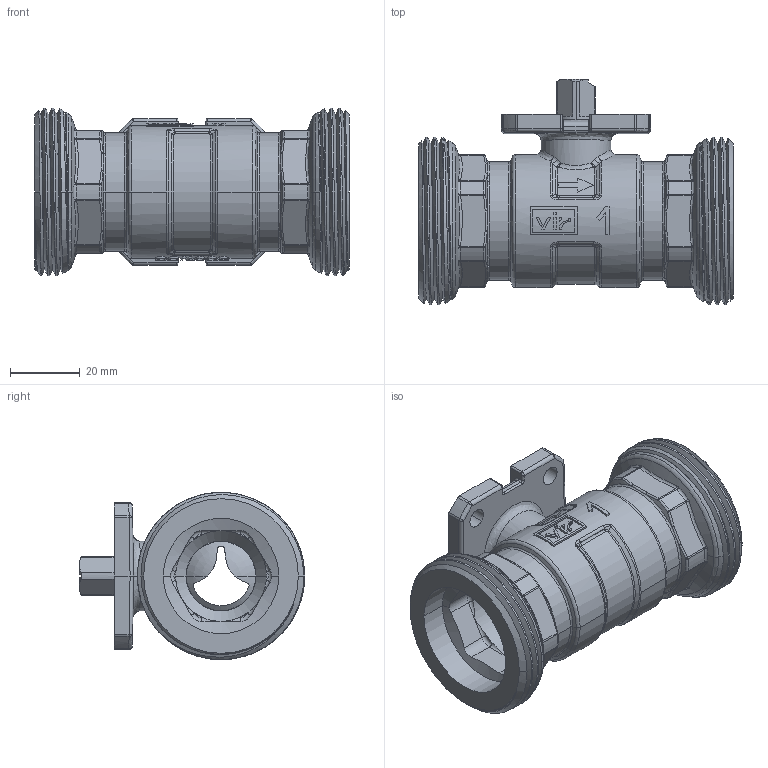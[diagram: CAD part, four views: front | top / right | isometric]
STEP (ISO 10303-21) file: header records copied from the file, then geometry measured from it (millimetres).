
FILE_DESCRIPTION((''),'2;1');
FILE_NAME('H988SX025_2314_SW0001','2015-05-11T',('64ciro'),('Vir spa'),'PRO/ENGINEER BY PARAMETRIC TECHNOLOGY CORPORATION, 2010280','PRO/ENGINEER BY PARAMETRIC TECHNOLOGY CORPORATION, 2010280','');
FILE_SCHEMA(('CONFIG_CONTROL_DESIGN'));
Products named in the file (1): H988SX025_2314_SW0001
Bounding box: 90 x 64.4 x 47.8 mm (x, y, z)
Volume: 69216.2 mm3; surface area: 36790 mm2
Topology: 1 solids, 1 shells, 1167 faces, 2959 edges, 1844 vertices
Faces by surface type: plane 546, cylinder 259, bspline 170, torus 100, cone 72, sphere 18, extrusion 2
Entity records: 46143 total; most frequent: CARTESIAN_POINT 20273, ORIENTED_EDGE 5918, DIRECTION 4671, EDGE_CURVE 2959, VERTEX_POINT 1844, AXIS2_PLACEMENT_3D 1842, EDGE_LOOP 1231, FACE_OUTER_BOUND 1167
